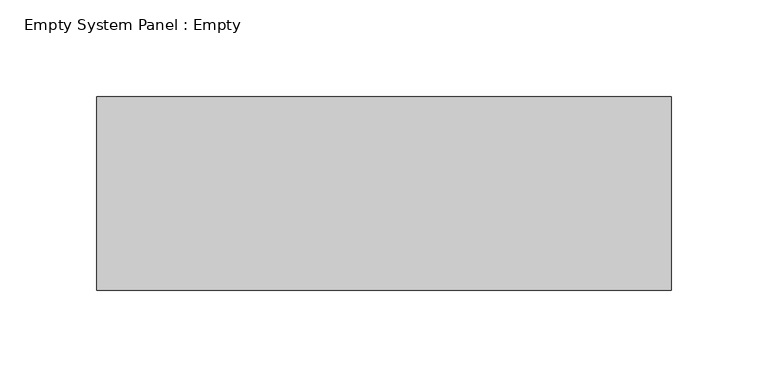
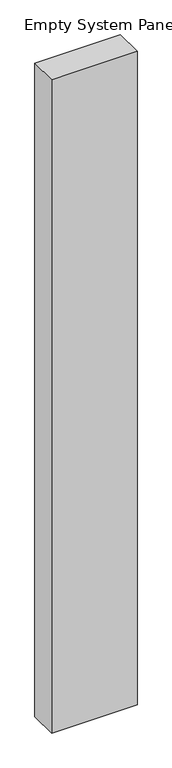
"""IFC4 building model written with IfcOpenShell, lengths in millimetres: plate geometry, Empty System Panel : Empty."""

from ifc_helpers import new_model, si_unit, origin, origin_with_axes, place, context, project, spatial, polyline, outline, extrude, source, transform, mapped, element, save


def empty_system_panel_empty_05cf64a3(model_context):
    return source(origin(), model_context, "Body", "SweptSolid", [
        extrude(outline(polyline([(148.5, -50.0), (-148.5, -50.0), (-148.5, 50.0), (148.5, 50.0), (148.5, -50.0)])), origin_with_axes(), (0.0, 0.0, 1.0), 2400.0),
    ])


if __name__ == "__main__":
    model = new_model("IFC4")
    model_context = context("Model", 3, world=origin())
    ifc_project = project(units=[si_unit("LENGTHUNIT", "METRE", prefix="MILLI")], contexts=[model_context])
    site = spatial("IfcSite", under=ifc_project)
    building = spatial("IfcBuilding", under=site)
    placement = place(None, origin())
    empty_system_panel_empty_shape = empty_system_panel_empty_05cf64a3(model_context)
    element("IfcPlate", 1, ObjectType="Empty System Panel : Empty", at=placement, inside=building, context=model_context, shape_type="MappedRepresentation", body=[
        mapped(empty_system_panel_empty_shape, transform((0.0, 0.0, 0.0), x_axis=(1.0, 0.0, 0.0), y_axis=(0.0, 1.0, 0.0), z_axis=(0.0, 0.0, 1.0))),
    ])
    save(model, "model.ifc")
